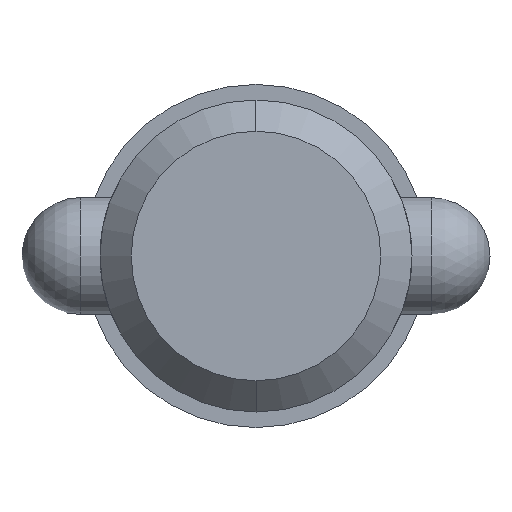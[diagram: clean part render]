
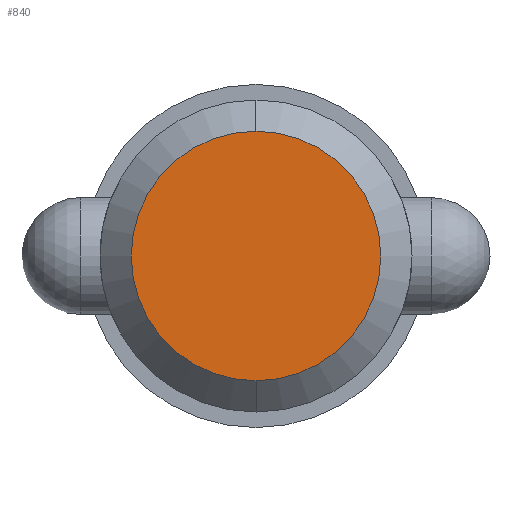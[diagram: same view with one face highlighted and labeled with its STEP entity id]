
A CAD part, left-side view. The second image highlights one B-rep face of the part: STEP entity #840.
In plain terms, the highlighted planar face has unit normal (-1, 0, 0).
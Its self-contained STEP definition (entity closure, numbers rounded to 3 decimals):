
#40 = CARTESIAN_POINT ( 'NONE',  ( 0., 0., 0. ) ) ;
#71 = FACE_OUTER_BOUND ( 'NONE', #914, .T. ) ;
#78 = ORIENTED_EDGE ( 'NONE', *, *, #940, .F. ) ;
#109 = EDGE_CURVE ( 'NONE', #994, #926, #298, .T. ) ;
#144 = CARTESIAN_POINT ( 'NONE',  ( 0., 0., 0. ) ) ;
#210 = DIRECTION ( 'NONE',  ( 0., 0., -1. ) ) ;
#225 = ORIENTED_EDGE ( 'NONE', *, *, #109, .F. ) ;
#298 = CIRCLE ( 'NONE', #898, 10.16 ) ;
#329 = CIRCLE ( 'NONE', #558, 10.16 ) ;
#370 = DIRECTION ( 'NONE',  ( 1., 0., 0. ) ) ;
#391 = CARTESIAN_POINT ( 'NONE',  ( 0., 0., 10.16 ) ) ;
#403 = CARTESIAN_POINT ( 'NONE',  ( 0., 0., -10.16 ) ) ;
#475 = DIRECTION ( 'NONE',  ( -1., 0., 0. ) ) ;
#534 = DIRECTION ( 'NONE',  ( 0., 0., 1. ) ) ;
#558 = AXIS2_PLACEMENT_3D ( 'NONE', #624, #1042, #566 ) ;
#566 = DIRECTION ( 'NONE',  ( 0., 0., -1. ) ) ;
#624 = CARTESIAN_POINT ( 'NONE',  ( 0., 0., 0. ) ) ;
#642 = AXIS2_PLACEMENT_3D ( 'NONE', #144, #475, #534 ) ;
#840 = ADVANCED_FACE ( 'NONE', ( #71 ), #989, .T. ) ;
#898 = AXIS2_PLACEMENT_3D ( 'NONE', #40, #370, #210 ) ;
#914 = EDGE_LOOP ( 'NONE', ( #78, #225 ) ) ;
#926 = VERTEX_POINT ( 'NONE', #403 ) ;
#940 = EDGE_CURVE ( 'NONE', #926, #994, #329, .T. ) ;
#989 = PLANE ( 'NONE',  #642 ) ;
#994 = VERTEX_POINT ( 'NONE', #391 ) ;
#1042 = DIRECTION ( 'NONE',  ( 1., 0., 0. ) ) ;
